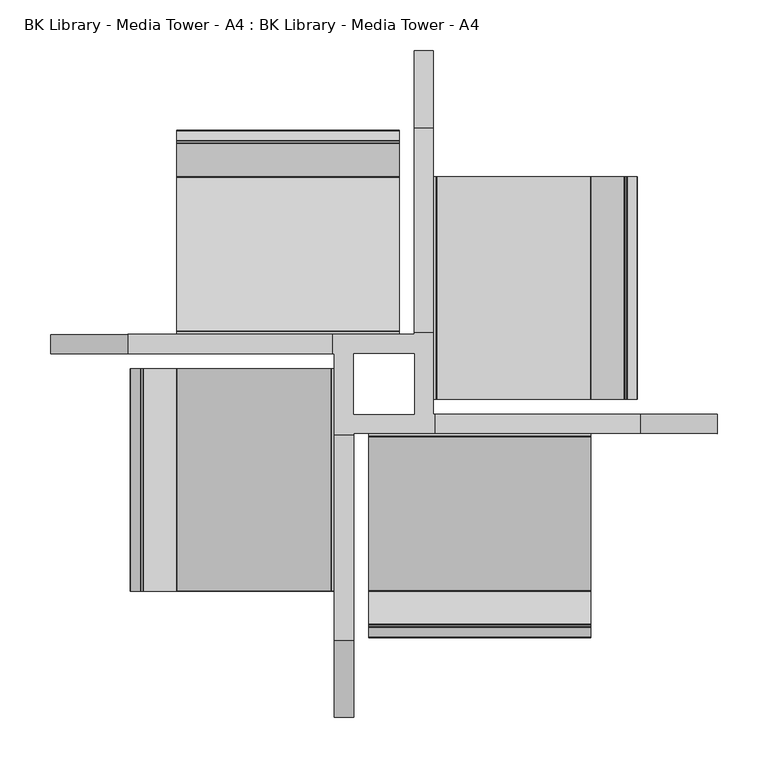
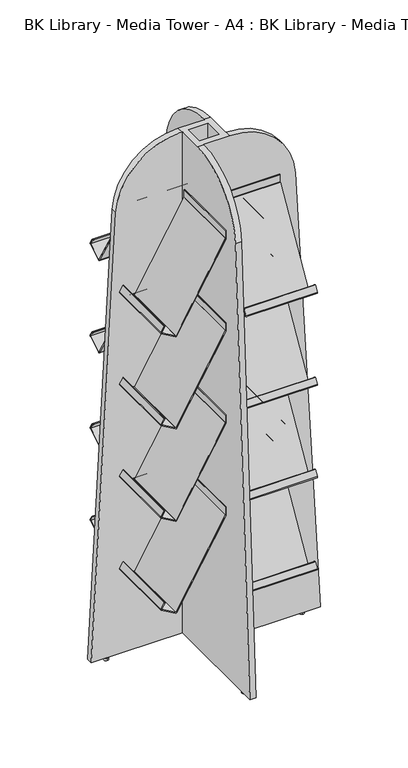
"""IFC4 building model written with IfcOpenShell, lengths in millimetres: furniture geometry, BK Library - Media Tower - A4 : BK Library - Media Tower - A4."""

from ifc_helpers import new_model, si_unit, point, frame, frame_2d, origin, place, context, project, spatial, polyline, circle_curve, trimmed, segment, composite_curve, outline, extrude, source, transform, mapped, element, save
from ifc_brep_helpers import plane_surface, cylinder_surface, advanced_brep


def bk_library_media_tower_a4_bk_library_media_tower_a4_59d103bd(model_context):
    return source(origin(), model_context, "Body", "SolidModel", [
        advanced_brep(
        [(30.0, 50.6069829, 1687.4116211), (30.0, 253.7385228, 1494.7718472), (30.0, 330.0, 57.4116211), (30.0, 49.0, 57.4116211), (30.0, 49.0, 1687.4116211), (30.0, -30.0, 1687.4116211), (30.0, 30.0, 1687.4116211), (30.0, 30.0, 57.4116211), (30.0, -30.0, 57.4116211), (49.0, -30.0, 57.4116211), (49.0, 330.0, 57.4116211), (49.0, 253.7385228, 1494.7718472), (49.0, 50.6069829, 1687.4116211), (49.0, -30.0, 1687.4116211), (330.0, -30.0, 57.4116211), (330.0, -49.0, 57.4116211), (-30.0, -49.0, 57.4116211), (-30.0, -330.0, 57.4116211), (-49.0, -330.0, 57.4116211), (-49.0, 30.0, 57.4116211), (-330.0, 30.0, 57.4116211), (-330.0, 49.0, 57.4116211), (-30.0, 30.0, 57.4116211), (-30.0, -30.0, 57.4116211), (-50.6069829, 49.0, 1687.4116211), (-50.6069829, 30.0, 1687.4116211), (-49.0, 30.0, 1687.4116211), (-49.0, -50.6069829, 1687.4116211), (-30.0, -50.6069829, 1687.4116211), (-30.0, -49.0, 1687.4116211), (50.6069829, -49.0, 1687.4116211), (50.6069829, -30.0, 1687.4116211), (-30.0, -30.0, 1687.4116211), (-30.0, 30.0, 1687.4116211), (-253.7385228, 30.0, 1494.7718472), (-253.7385228, 49.0, 1494.7718472), (-30.0, -253.7385228, 1494.7718472), (-49.0, -253.7385228, 1494.7718472), (253.7385228, -30.0, 1494.7718472), (253.7385228, -49.0, 1494.7718472)],
        [
            (0, 1, circle_curve(frame((30.0, 50.6069829, 1483.994374), z_axis=(-1.0, 0.0, 0.0), x_axis=(0.0, -1.0, 0.0)), 203.4172471)),
            (1, 2),
            (2, 3),
            (3, 4),
            (4, 0),
            (5, 6),
            (6, 7),
            (7, 8),
            (8, 5),
            (9, 10),
            (10, 11),
            (11, 12, circle_curve(frame((49.0, 50.6069829, 1483.994374), z_axis=(1.0, 0.0, 0.0), x_axis=(0.0, -1.0, 0.0)), 203.4172471)),
            (12, 13),
            (13, 9),
            (9, 14),
            (14, 15),
            (15, 16),
            (16, 17),
            (17, 18),
            (18, 19),
            (19, 20),
            (20, 21),
            (21, 3),
            (2, 10),
            (22, 23),
            (23, 8),
            (7, 22),
            (12, 0),
            (4, 24),
            (24, 25),
            (25, 26),
            (26, 27),
            (27, 28),
            (28, 29),
            (29, 30),
            (30, 31),
            (31, 13),
            (5, 32),
            (32, 33),
            (33, 6),
            (1, 11),
            (33, 22),
            (25, 34, circle_curve(frame((-50.6069829, 30.0, 1483.994374), z_axis=(0.0, -1.0, 0.0), x_axis=(1.0, 0.0, 0.0)), 203.4172471)),
            (34, 20),
            (19, 26),
            (21, 35),
            (35, 24, circle_curve(frame((-50.6069829, 49.0, 1483.994374), z_axis=(0.0, 1.0, 0.0), x_axis=(1.0, 0.0, 0.0)), 203.4172471)),
            (34, 35),
            (32, 23),
            (28, 36, circle_curve(frame((-30.0, -50.6069829, 1483.994374), z_axis=(1.0, 0.0, 0.0), x_axis=(0.0, 1.0, 0.0)), 203.4172471)),
            (36, 17),
            (16, 29),
            (18, 37),
            (37, 27, circle_curve(frame((-49.0, -50.6069829, 1483.994374), z_axis=(-1.0, 0.0, 0.0), x_axis=(0.0, 1.0, 0.0)), 203.4172471)),
            (36, 37),
            (31, 38, circle_curve(frame((50.6069829, -30.0, 1483.994374), z_axis=(0.0, 1.0, 0.0), x_axis=(-1.0, 0.0, 0.0)), 203.4172471)),
            (38, 14),
            (15, 39),
            (39, 30, circle_curve(frame((50.6069829, -49.0, 1483.994374), z_axis=(0.0, -1.0, 0.0), x_axis=(-1.0, 0.0, 0.0)), 203.4172471)),
            (38, 39),
        ],
        [
            plane_surface(frame((30.0, -30.0, 1048.4828092), z_axis=(-1.0, 0.0, 0.0), x_axis=(0.0, 0.0, 1.0))),
            plane_surface(frame((49.0, -30.0, 1048.4828092), z_axis=(1.0, 0.0, 0.0), x_axis=(0.0, 0.0, -1.0))),
            plane_surface(frame((30.0, 330.0, 57.4116211), z_axis=(0.0, 0.0, -1.0), x_axis=(1.0, 0.0, 0.0))),
            plane_surface(frame((30.0, -30.0, 1687.4116211), z_axis=(0.0, 0.0, 1.0), x_axis=(1.0, 0.0, 0.0))),
            plane_surface(frame((30.0, 253.7385228, 1494.7718472), z_axis=(0.0, 0.9985954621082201, 0.052982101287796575), x_axis=(1.0, 0.0, 0.0))),
            cylinder_surface(frame((49.0, 50.6069829, 1483.994374), z_axis=(-1.0, 0.0, 0.0), x_axis=(0.0, -1.0, 0.0)), 203.4172471),
            plane_surface(frame((30.0, 30.0, 1048.4828092), z_axis=(0.0, -1.0, 0.0), x_axis=(0.0, 0.0, 1.0))),
            plane_surface(frame((30.0, 49.0, 1048.4828092), z_axis=(0.0, 1.0, 0.0), x_axis=(0.0, 0.0, -1.0))),
            plane_surface(frame((-253.7385228, 30.0, 1494.7718472), z_axis=(-0.9985954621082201, 0.0, 0.052982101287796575), x_axis=(0.0, 1.0, 0.0))),
            cylinder_surface(frame((-50.6069829, 49.0, 1483.994374), z_axis=(0.0, -1.0, 0.0), x_axis=(1.0, 0.0, 0.0)), 203.4172471),
            plane_surface(frame((-30.0, 30.0, 1048.4828092), z_axis=(1.0, 0.0, 0.0), x_axis=(0.0, 0.0, 1.0))),
            plane_surface(frame((-49.0, 30.0, 1048.4828092), z_axis=(-1.0, 0.0, 0.0), x_axis=(0.0, 0.0, -1.0))),
            plane_surface(frame((-30.0, -253.7385228, 1494.7718472), z_axis=(0.0, -0.9985954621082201, 0.052982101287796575), x_axis=(-1.0, 0.0, 0.0))),
            cylinder_surface(frame((-49.0, -50.6069829, 1483.994374), z_axis=(1.0, 0.0, 0.0), x_axis=(0.0, 1.0, 0.0)), 203.4172471),
            plane_surface(frame((-30.0, -30.0, 1048.4828092), z_axis=(0.0, 1.0, 0.0), x_axis=(0.0, 0.0, 1.0))),
            plane_surface(frame((-30.0, -49.0, 1048.4828092), z_axis=(0.0, -1.0, 0.0), x_axis=(0.0, 0.0, -1.0))),
            plane_surface(frame((253.7385228, -30.0, 1494.7718472), z_axis=(0.9985954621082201, 0.0, 0.052982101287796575), x_axis=(0.0, -1.0, 0.0))),
            cylinder_surface(frame((50.6069829, -49.0, 1483.994374), z_axis=(0.0, 1.0, 0.0), x_axis=(-1.0, 0.0, 0.0)), 203.4172471),
        ],
        [
            (0, [[1, 2, 3, 4, 5]]),
            (0, [[6, 7, 8, 9]]),
            (1, [[10, 11, 12, 13, 14]]),
            (2, [[-10, 15, 16, 17, 18, 19, 20, 21, 22, 23, -3, 24], [25, 26, -8, 27]]),
            (3, [[-13, 28, -5, 29, 30, 31, 32, 33, 34, 35, 36, 37], [-6, 38, 39, 40]]),
            (4, [[-2, 41, -11, -24]]),
            (5, [[-1, -28, -12, -41]]),
            (6, [[-7, -40, 42, -27]]),
            (6, [[43, 44, -21, 45, -31]]),
            (7, [[-23, 46, 47, -29, -4]]),
            (8, [[-44, 48, -46, -22]]),
            (9, [[-43, -30, -47, -48]]),
            (10, [[-42, -39, 49, -25]]),
            (10, [[50, 51, -18, 52, -34]]),
            (11, [[-20, 53, 54, -32, -45]]),
            (12, [[-51, 55, -53, -19]]),
            (13, [[-50, -33, -54, -55]]),
            (14, [[-26, -49, -38, -9]]),
            (14, [[56, 57, -15, -14, -37]]),
            (15, [[-17, 58, 59, -35, -52]]),
            (16, [[-57, 60, -58, -16]]),
            (17, [[-56, -36, -59, -60]]),
        ],
    ),
        extrude(outline(composite_curve([segment(trimmed(circle_curve(frame_2d((280.0, -37.5)), 6.9282032), [point((280.0, -44.4282032))], [point((280.0, -30.5717968))], False, "CARTESIAN"), True, "CONTINUOUS"), segment(trimmed(circle_curve(frame_2d((280.0, -37.5)), 6.9282032), [point((280.0, -30.5717968))], [point((280.0, -44.4282032))], False, "CARTESIAN"), True, "CONTINUOUS")], self_intersect=False)), frame((0.0, 0.0, 47.6778831), z_axis=(0.0, 0.0, 1.0), x_axis=(1.0, 0.0, 0.0)), (0.0, 0.0, 1.0), 7.7337379),
        extrude(outline(composite_curve([segment(trimmed(circle_curve(frame_2d((37.5, 280.0)), 6.9282032), [point((44.4282032, 280.0))], [point((30.5717968, 280.0))], False, "CARTESIAN"), True, "CONTINUOUS"), segment(trimmed(circle_curve(frame_2d((37.5, 280.0)), 6.9282032), [point((30.5717968, 280.0))], [point((44.4282032, 280.0))], False, "CARTESIAN"), True, "CONTINUOUS")], self_intersect=False)), frame((0.0, 0.0, 47.6778831), z_axis=(0.0, 0.0, 1.0), x_axis=(1.0, 0.0, 0.0)), (0.0, 0.0, 1.0), 7.7337379),
        extrude(outline(composite_curve([segment(trimmed(circle_curve(frame_2d((-280.0, 37.5)), 6.9282032), [point((-280.0, 44.4282032))], [point((-280.0, 30.5717968))], False, "CARTESIAN"), True, "CONTINUOUS"), segment(trimmed(circle_curve(frame_2d((-280.0, 37.5)), 6.9282032), [point((-280.0, 30.5717968))], [point((-280.0, 44.4282032))], False, "CARTESIAN"), True, "CONTINUOUS")], self_intersect=False)), frame((0.0, 0.0, 47.6778831), z_axis=(0.0, 0.0, 1.0), x_axis=(1.0, 0.0, 0.0)), (0.0, 0.0, 1.0), 7.7337379),
        extrude(outline(composite_curve([segment(trimmed(circle_curve(frame_2d((-37.5, -280.0)), 6.9282032), [point((-44.4282032, -280.0))], [point((-30.5717968, -280.0))], False, "CARTESIAN"), True, "CONTINUOUS"), segment(trimmed(circle_curve(frame_2d((-37.5, -280.0)), 6.9282032), [point((-30.5717968, -280.0))], [point((-44.4282032, -280.0))], False, "CARTESIAN"), True, "CONTINUOUS")], self_intersect=False)), frame((0.0, 0.0, 47.6778831), z_axis=(0.0, 0.0, 1.0), x_axis=(1.0, 0.0, 0.0)), (0.0, 0.0, 1.0), 7.7337379),
        extrude(outline(composite_curve([segment(trimmed(circle_curve(frame_2d((204.5980762, 320.4078475)), 3.0), [point((206.0980762, 317.8097713))], [point((202.0, 318.9078475))], False, "CARTESIAN"), True, "CONTINUOUS"), segment(polyline([(202.0, 318.9078475), (49.0, 583.9116211), (49.0, 605.9116211), (39.0, 605.9116211)]), True, "CONTINUOUS"), segment(trimmed(circle_curve(frame_2d((39.0, 608.9116211)), 3.0), [point((39.0, 605.9116211))], [point((36.0, 608.9116211))], False, "CARTESIAN"), True, "CONTINUOUS"), segment(polyline([(36.0, 608.9116211), (36.0, 621.9116211), (39.0, 621.9116211), (39.0, 608.9116211), (51.5, 608.9116211)]), True, "CONTINUOUS"), segment(trimmed(circle_curve(frame_2d((51.5, 608.4116211)), 0.5), [point((51.5, 608.9116211))], [point((52.0, 608.4116211))], False, "CARTESIAN"), True, "CONTINUOUS"), segment(polyline([(52.0, 608.4116211), (52.0, 585.1174004)]), True, "CONTINUOUS"), segment(trimmed(circle_curve(frame_2d((53.5000295, 585.1174004)), 1.5000295), [point((52.0, 585.1174004))], [point((52.2009658, 584.3673856))], True, "CARTESIAN"), True, "CONTINUOUS"), segment(polyline([(52.2009658, 584.3673856), (204.3480762, 320.8408602)]), True, "CONTINUOUS"), segment(trimmed(circle_curve(frame_2d((204.7810889, 321.0908602)), 0.5), [point((204.3480762, 320.8408602))], [point((205.0310889, 320.6578475))], True, "CARTESIAN"), True, "CONTINUOUS"), segment(polyline([(205.0310889, 320.6578475), (247.8993464, 345.4078475), (238.1493464, 362.2953429)]), True, "CONTINUOUS"), segment(trimmed(circle_curve(frame_2d((238.5823591, 362.5453429)), 0.5), [point((238.1493464, 362.2953429))], [point((238.3323591, 362.9783556))], False, "CARTESIAN"), True, "CONTINUOUS"), segment(polyline([(238.3323591, 362.9783556), (240.0644099, 363.9783556)]), True, "CONTINUOUS"), segment(trimmed(circle_curve(frame_2d((240.3144099, 363.5453429)), 0.5), [point((240.0644099, 363.9783556))], [point((240.7474226, 363.7953429))], False, "CARTESIAN"), True, "CONTINUOUS"), segment(polyline([(240.7474226, 363.7953429), (250.4974226, 346.9078475)]), True, "CONTINUOUS"), segment(trimmed(circle_curve(frame_2d((247.8993464, 345.4078475)), 3.0), [point((250.4974226, 346.9078475))], [point((249.3993464, 342.8097713))], False, "CARTESIAN"), True, "CONTINUOUS"), segment(polyline([(249.3993464, 342.8097713), (206.0980762, 317.8097713)]), True, "CONTINUOUS")], self_intersect=False)), frame((-205.0, 0.0, 0.0), z_axis=(1.0, 0.0, 0.0), x_axis=(0.0, 1.0, 0.0)), (0.0, 0.0, 1.0), 220.0),
        extrude(outline(composite_curve([segment(trimmed(circle_curve(frame_2d((204.5980762, 620.4078475)), 3.0), [point((206.0980762, 617.8097713))], [point((202.0, 618.9078475))], False, "CARTESIAN"), True, "CONTINUOUS"), segment(polyline([(202.0, 618.9078475), (49.0, 883.9116211), (49.0, 905.9116211), (39.0, 905.9116211)]), True, "CONTINUOUS"), segment(trimmed(circle_curve(frame_2d((39.0, 908.9116211)), 3.0), [point((39.0, 905.9116211))], [point((36.0, 908.9116211))], False, "CARTESIAN"), True, "CONTINUOUS"), segment(polyline([(36.0, 908.9116211), (36.0, 921.9116211), (39.0, 921.9116211), (39.0, 908.9116211), (51.5, 908.9116211)]), True, "CONTINUOUS"), segment(trimmed(circle_curve(frame_2d((51.5, 908.4116211)), 0.5), [point((51.5, 908.9116211))], [point((52.0, 908.4116211))], False, "CARTESIAN"), True, "CONTINUOUS"), segment(polyline([(52.0, 908.4116211), (52.0, 885.1174004)]), True, "CONTINUOUS"), segment(trimmed(circle_curve(frame_2d((53.5000295, 885.1174004)), 1.5000295), [point((52.0, 885.1174004))], [point((52.2009658, 884.3673856))], True, "CARTESIAN"), True, "CONTINUOUS"), segment(polyline([(52.2009658, 884.3673856), (204.3480762, 620.8408602)]), True, "CONTINUOUS"), segment(trimmed(circle_curve(frame_2d((204.7810889, 621.0908602)), 0.5), [point((204.3480762, 620.8408602))], [point((205.0310889, 620.6578475))], True, "CARTESIAN"), True, "CONTINUOUS"), segment(polyline([(205.0310889, 620.6578475), (247.8993464, 645.4078475), (238.1493464, 662.2953429)]), True, "CONTINUOUS"), segment(trimmed(circle_curve(frame_2d((238.5823591, 662.5453429)), 0.5), [point((238.1493464, 662.2953429))], [point((238.3323591, 662.9783556))], False, "CARTESIAN"), True, "CONTINUOUS"), segment(polyline([(238.3323591, 662.9783556), (240.0644099, 663.9783556)]), True, "CONTINUOUS"), segment(trimmed(circle_curve(frame_2d((240.3144099, 663.5453429)), 0.5), [point((240.0644099, 663.9783556))], [point((240.7474226, 663.7953429))], False, "CARTESIAN"), True, "CONTINUOUS"), segment(polyline([(240.7474226, 663.7953429), (250.4974226, 646.9078475)]), True, "CONTINUOUS"), segment(trimmed(circle_curve(frame_2d((247.8993464, 645.4078475)), 3.0), [point((250.4974226, 646.9078475))], [point((249.3993464, 642.8097713))], False, "CARTESIAN"), True, "CONTINUOUS"), segment(polyline([(249.3993464, 642.8097713), (206.0980762, 617.8097713)]), True, "CONTINUOUS")], self_intersect=False)), frame((-205.0, 0.0, 0.0), z_axis=(1.0, 0.0, 0.0), x_axis=(0.0, 1.0, 0.0)), (0.0, 0.0, 1.0), 220.0),
        extrude(outline(composite_curve([segment(trimmed(circle_curve(frame_2d((204.5980762, 920.4078475)), 3.0), [point((206.0980762, 917.8097713))], [point((202.0, 918.9078475))], False, "CARTESIAN"), True, "CONTINUOUS"), segment(polyline([(202.0, 918.9078475), (49.0, 1183.9116211), (49.0, 1205.9116211), (39.0, 1205.9116211)]), True, "CONTINUOUS"), segment(trimmed(circle_curve(frame_2d((39.0, 1208.9116211)), 3.0), [point((39.0, 1205.9116211))], [point((36.0, 1208.9116211))], False, "CARTESIAN"), True, "CONTINUOUS"), segment(polyline([(36.0, 1208.9116211), (36.0, 1221.9116211), (39.0, 1221.9116211), (39.0, 1208.9116211), (51.5, 1208.9116211)]), True, "CONTINUOUS"), segment(trimmed(circle_curve(frame_2d((51.5, 1208.4116211)), 0.5), [point((51.5, 1208.9116211))], [point((52.0, 1208.4116211))], False, "CARTESIAN"), True, "CONTINUOUS"), segment(polyline([(52.0, 1208.4116211), (52.0, 1185.1174004)]), True, "CONTINUOUS"), segment(trimmed(circle_curve(frame_2d((53.5000295, 1185.1174004)), 1.5000295), [point((52.0, 1185.1174004))], [point((52.2009658, 1184.3673856))], True, "CARTESIAN"), True, "CONTINUOUS"), segment(polyline([(52.2009658, 1184.3673856), (204.3480762, 920.8408602)]), True, "CONTINUOUS"), segment(trimmed(circle_curve(frame_2d((204.7810889, 921.0908602)), 0.5), [point((204.3480762, 920.8408602))], [point((205.0310889, 920.6578475))], True, "CARTESIAN"), True, "CONTINUOUS"), segment(polyline([(205.0310889, 920.6578475), (247.8993464, 945.4078475), (238.1493464, 962.2953429)]), True, "CONTINUOUS"), segment(trimmed(circle_curve(frame_2d((238.5823591, 962.5453429)), 0.5), [point((238.1493464, 962.2953429))], [point((238.3323591, 962.9783556))], False, "CARTESIAN"), True, "CONTINUOUS"), segment(polyline([(238.3323591, 962.9783556), (240.0644099, 963.9783556)]), True, "CONTINUOUS"), segment(trimmed(circle_curve(frame_2d((240.3144099, 963.5453429)), 0.5), [point((240.0644099, 963.9783556))], [point((240.7474226, 963.7953429))], False, "CARTESIAN"), True, "CONTINUOUS"), segment(polyline([(240.7474226, 963.7953429), (250.4974226, 946.9078475)]), True, "CONTINUOUS"), segment(trimmed(circle_curve(frame_2d((247.8993464, 945.4078475)), 3.0), [point((250.4974226, 946.9078475))], [point((249.3993464, 942.8097713))], False, "CARTESIAN"), True, "CONTINUOUS"), segment(polyline([(249.3993464, 942.8097713), (206.0980762, 917.8097713)]), True, "CONTINUOUS")], self_intersect=False)), frame((-205.0, 0.0, 0.0), z_axis=(1.0, 0.0, 0.0), x_axis=(0.0, 1.0, 0.0)), (0.0, 0.0, 1.0), 220.0),
        extrude(outline(composite_curve([segment(trimmed(circle_curve(frame_2d((204.5980762, 1220.4078475)), 3.0), [point((206.0980762, 1217.8097713))], [point((202.0, 1218.9078475))], False, "CARTESIAN"), True, "CONTINUOUS"), segment(polyline([(202.0, 1218.9078475), (49.0, 1483.9116211), (49.0, 1505.9116211), (39.0, 1505.9116211)]), True, "CONTINUOUS"), segment(trimmed(circle_curve(frame_2d((39.0, 1508.9116211)), 3.0), [point((39.0, 1505.9116211))], [point((36.0, 1508.9116211))], False, "CARTESIAN"), True, "CONTINUOUS"), segment(polyline([(36.0, 1508.9116211), (36.0, 1521.9116211), (39.0, 1521.9116211), (39.0, 1508.9116211), (51.5, 1508.9116211)]), True, "CONTINUOUS"), segment(trimmed(circle_curve(frame_2d((51.5, 1508.4116211)), 0.5), [point((51.5, 1508.9116211))], [point((52.0, 1508.4116211))], False, "CARTESIAN"), True, "CONTINUOUS"), segment(polyline([(52.0, 1508.4116211), (52.0, 1485.1174004)]), True, "CONTINUOUS"), segment(trimmed(circle_curve(frame_2d((53.5000295, 1485.1174004)), 1.5000295), [point((52.0, 1485.1174004))], [point((52.2009658, 1484.3673856))], True, "CARTESIAN"), True, "CONTINUOUS"), segment(polyline([(52.2009658, 1484.3673856), (204.3480762, 1220.8408602)]), True, "CONTINUOUS"), segment(trimmed(circle_curve(frame_2d((204.7810889, 1221.0908602)), 0.5), [point((204.3480762, 1220.8408602))], [point((205.0310889, 1220.6578475))], True, "CARTESIAN"), True, "CONTINUOUS"), segment(polyline([(205.0310889, 1220.6578475), (247.8993464, 1245.4078475), (238.1493464, 1262.2953429)]), True, "CONTINUOUS"), segment(trimmed(circle_curve(frame_2d((238.5823591, 1262.5453429)), 0.5), [point((238.1493464, 1262.2953429))], [point((238.3323591, 1262.9783556))], False, "CARTESIAN"), True, "CONTINUOUS"), segment(polyline([(238.3323591, 1262.9783556), (240.0644099, 1263.9783556)]), True, "CONTINUOUS"), segment(trimmed(circle_curve(frame_2d((240.3144099, 1263.5453429)), 0.5), [point((240.0644099, 1263.9783556))], [point((240.7474226, 1263.7953429))], False, "CARTESIAN"), True, "CONTINUOUS"), segment(polyline([(240.7474226, 1263.7953429), (250.4974226, 1246.9078475)]), True, "CONTINUOUS"), segment(trimmed(circle_curve(frame_2d((247.8993464, 1245.4078475)), 3.0), [point((250.4974226, 1246.9078475))], [point((249.3993464, 1242.8097713))], False, "CARTESIAN"), True, "CONTINUOUS"), segment(polyline([(249.3993464, 1242.8097713), (206.0980762, 1217.8097713)]), True, "CONTINUOUS")], self_intersect=False)), frame((-205.0, 0.0, 0.0), z_axis=(1.0, 0.0, 0.0), x_axis=(0.0, 1.0, 0.0)), (0.0, 0.0, 1.0), 220.0),
        extrude(outline(composite_curve([segment(polyline([(317.8097713, 206.0980762), (342.8097713, 249.3993464)]), True, "CONTINUOUS"), segment(trimmed(circle_curve(frame_2d((345.4078475, 247.8993464)), 3.0), [point((342.8097713, 249.3993464))], [point((346.9078475, 250.4974226))], False, "CARTESIAN"), True, "CONTINUOUS"), segment(polyline([(346.9078475, 250.4974226), (363.7953429, 240.7474226)]), True, "CONTINUOUS"), segment(trimmed(circle_curve(frame_2d((363.5453429, 240.3144099)), 0.5), [point((363.7953429, 240.7474226))], [point((363.9783556, 240.0644099))], False, "CARTESIAN"), True, "CONTINUOUS"), segment(polyline([(363.9783556, 240.0644099), (362.9783556, 238.3323591)]), True, "CONTINUOUS"), segment(trimmed(circle_curve(frame_2d((362.5453429, 238.5823591)), 0.5), [point((362.9783556, 238.3323591))], [point((362.2953429, 238.1493464))], False, "CARTESIAN"), True, "CONTINUOUS"), segment(polyline([(362.2953429, 238.1493464), (345.4078475, 247.8993464), (320.6578475, 205.0310889)]), True, "CONTINUOUS"), segment(trimmed(circle_curve(frame_2d((321.0908602, 204.7810889)), 0.5), [point((320.6578475, 205.0310889))], [point((320.8408602, 204.3480762))], True, "CARTESIAN"), True, "CONTINUOUS"), segment(polyline([(320.8408602, 204.3480762), (584.3673856, 52.2009658)]), True, "CONTINUOUS"), segment(trimmed(circle_curve(frame_2d((585.1174004, 53.5000295)), 1.5000295), [point((584.3673856, 52.2009658))], [point((585.1174004, 52.0))], True, "CARTESIAN"), True, "CONTINUOUS"), segment(polyline([(585.1174004, 52.0), (608.4116211, 52.0)]), True, "CONTINUOUS"), segment(trimmed(circle_curve(frame_2d((608.4116211, 51.5)), 0.5), [point((608.4116211, 52.0))], [point((608.9116211, 51.5))], False, "CARTESIAN"), True, "CONTINUOUS"), segment(polyline([(608.9116211, 51.5), (608.9116211, 39.0), (621.9116211, 39.0), (621.9116211, 36.0), (608.9116211, 36.0)]), True, "CONTINUOUS"), segment(trimmed(circle_curve(frame_2d((608.9116211, 39.0)), 3.0), [point((608.9116211, 36.0))], [point((605.9116211, 39.0))], False, "CARTESIAN"), True, "CONTINUOUS"), segment(polyline([(605.9116211, 39.0), (605.9116211, 49.0), (583.9116211, 49.0), (318.9078475, 202.0)]), True, "CONTINUOUS"), segment(trimmed(circle_curve(frame_2d((320.4078475, 204.5980762)), 3.0), [point((318.9078475, 202.0))], [point((317.8097713, 206.0980762))], False, "CARTESIAN"), True, "CONTINUOUS")], self_intersect=False)), frame((0.0, -15.0, 0.0), z_axis=(0.0, 1.0, 0.0), x_axis=(0.0, 0.0, 1.0)), (0.0, 0.0, 1.0), 220.0),
        extrude(outline(composite_curve([segment(polyline([(617.8097713, 206.0980762), (642.8097713, 249.3993464)]), True, "CONTINUOUS"), segment(trimmed(circle_curve(frame_2d((645.4078475, 247.8993464)), 3.0), [point((642.8097713, 249.3993464))], [point((646.9078475, 250.4974226))], False, "CARTESIAN"), True, "CONTINUOUS"), segment(polyline([(646.9078475, 250.4974226), (663.7953429, 240.7474226)]), True, "CONTINUOUS"), segment(trimmed(circle_curve(frame_2d((663.5453429, 240.3144099)), 0.5), [point((663.7953429, 240.7474226))], [point((663.9783556, 240.0644099))], False, "CARTESIAN"), True, "CONTINUOUS"), segment(polyline([(663.9783556, 240.0644099), (662.9783556, 238.3323591)]), True, "CONTINUOUS"), segment(trimmed(circle_curve(frame_2d((662.5453429, 238.5823591)), 0.5), [point((662.9783556, 238.3323591))], [point((662.2953429, 238.1493464))], False, "CARTESIAN"), True, "CONTINUOUS"), segment(polyline([(662.2953429, 238.1493464), (645.4078475, 247.8993464), (620.6578475, 205.0310889)]), True, "CONTINUOUS"), segment(trimmed(circle_curve(frame_2d((621.0908602, 204.7810889)), 0.5), [point((620.6578475, 205.0310889))], [point((620.8408602, 204.3480762))], True, "CARTESIAN"), True, "CONTINUOUS"), segment(polyline([(620.8408602, 204.3480762), (884.3673856, 52.2009658)]), True, "CONTINUOUS"), segment(trimmed(circle_curve(frame_2d((885.1174004, 53.5000295)), 1.5000295), [point((884.3673856, 52.2009658))], [point((885.1174004, 52.0))], True, "CARTESIAN"), True, "CONTINUOUS"), segment(polyline([(885.1174004, 52.0), (908.4116211, 52.0)]), True, "CONTINUOUS"), segment(trimmed(circle_curve(frame_2d((908.4116211, 51.5)), 0.5), [point((908.4116211, 52.0))], [point((908.9116211, 51.5))], False, "CARTESIAN"), True, "CONTINUOUS"), segment(polyline([(908.9116211, 51.5), (908.9116211, 39.0), (921.9116211, 39.0), (921.9116211, 36.0), (908.9116211, 36.0)]), True, "CONTINUOUS"), segment(trimmed(circle_curve(frame_2d((908.9116211, 39.0)), 3.0), [point((908.9116211, 36.0))], [point((905.9116211, 39.0))], False, "CARTESIAN"), True, "CONTINUOUS"), segment(polyline([(905.9116211, 39.0), (905.9116211, 49.0), (883.9116211, 49.0), (618.9078475, 202.0)]), True, "CONTINUOUS"), segment(trimmed(circle_curve(frame_2d((620.4078475, 204.5980762)), 3.0), [point((618.9078475, 202.0))], [point((617.8097713, 206.0980762))], False, "CARTESIAN"), True, "CONTINUOUS")], self_intersect=False)), frame((0.0, -15.0, 0.0), z_axis=(0.0, 1.0, 0.0), x_axis=(0.0, 0.0, 1.0)), (0.0, 0.0, 1.0), 220.0),
        extrude(outline(composite_curve([segment(polyline([(917.8097713, 206.0980762), (942.8097713, 249.3993464)]), True, "CONTINUOUS"), segment(trimmed(circle_curve(frame_2d((945.4078475, 247.8993464)), 3.0), [point((942.8097713, 249.3993464))], [point((946.9078475, 250.4974226))], False, "CARTESIAN"), True, "CONTINUOUS"), segment(polyline([(946.9078475, 250.4974226), (963.7953429, 240.7474226)]), True, "CONTINUOUS"), segment(trimmed(circle_curve(frame_2d((963.5453429, 240.3144099)), 0.5), [point((963.7953429, 240.7474226))], [point((963.9783556, 240.0644099))], False, "CARTESIAN"), True, "CONTINUOUS"), segment(polyline([(963.9783556, 240.0644099), (962.9783556, 238.3323591)]), True, "CONTINUOUS"), segment(trimmed(circle_curve(frame_2d((962.5453429, 238.5823591)), 0.5), [point((962.9783556, 238.3323591))], [point((962.2953429, 238.1493464))], False, "CARTESIAN"), True, "CONTINUOUS"), segment(polyline([(962.2953429, 238.1493464), (945.4078475, 247.8993464), (920.6578475, 205.0310889)]), True, "CONTINUOUS"), segment(trimmed(circle_curve(frame_2d((921.0908602, 204.7810889)), 0.5), [point((920.6578475, 205.0310889))], [point((920.8408602, 204.3480762))], True, "CARTESIAN"), True, "CONTINUOUS"), segment(polyline([(920.8408602, 204.3480762), (1184.3673856, 52.2009658)]), True, "CONTINUOUS"), segment(trimmed(circle_curve(frame_2d((1185.1174004, 53.5000295)), 1.5000295), [point((1184.3673856, 52.2009658))], [point((1185.1174004, 52.0))], True, "CARTESIAN"), True, "CONTINUOUS"), segment(polyline([(1185.1174004, 52.0), (1208.4116211, 52.0)]), True, "CONTINUOUS"), segment(trimmed(circle_curve(frame_2d((1208.4116211, 51.5)), 0.5), [point((1208.4116211, 52.0))], [point((1208.9116211, 51.5))], False, "CARTESIAN"), True, "CONTINUOUS"), segment(polyline([(1208.9116211, 51.5), (1208.9116211, 39.0), (1221.9116211, 39.0), (1221.9116211, 36.0), (1208.9116211, 36.0)]), True, "CONTINUOUS"), segment(trimmed(circle_curve(frame_2d((1208.9116211, 39.0)), 3.0), [point((1208.9116211, 36.0))], [point((1205.9116211, 39.0))], False, "CARTESIAN"), True, "CONTINUOUS"), segment(polyline([(1205.9116211, 39.0), (1205.9116211, 49.0), (1183.9116211, 49.0), (918.9078475, 202.0)]), True, "CONTINUOUS"), segment(trimmed(circle_curve(frame_2d((920.4078475, 204.5980762)), 3.0), [point((918.9078475, 202.0))], [point((917.8097713, 206.0980762))], False, "CARTESIAN"), True, "CONTINUOUS")], self_intersect=False)), frame((0.0, -15.0, 0.0), z_axis=(0.0, 1.0, 0.0), x_axis=(0.0, 0.0, 1.0)), (0.0, 0.0, 1.0), 220.0),
        extrude(outline(composite_curve([segment(polyline([(1217.8097713, 206.0980762), (1242.8097713, 249.3993464)]), True, "CONTINUOUS"), segment(trimmed(circle_curve(frame_2d((1245.4078475, 247.8993464)), 3.0), [point((1242.8097713, 249.3993464))], [point((1246.9078475, 250.4974226))], False, "CARTESIAN"), True, "CONTINUOUS"), segment(polyline([(1246.9078475, 250.4974226), (1263.7953429, 240.7474226)]), True, "CONTINUOUS"), segment(trimmed(circle_curve(frame_2d((1263.5453429, 240.3144099)), 0.5), [point((1263.7953429, 240.7474226))], [point((1263.9783556, 240.0644099))], False, "CARTESIAN"), True, "CONTINUOUS"), segment(polyline([(1263.9783556, 240.0644099), (1262.9783556, 238.3323591)]), True, "CONTINUOUS"), segment(trimmed(circle_curve(frame_2d((1262.5453429, 238.5823591)), 0.5), [point((1262.9783556, 238.3323591))], [point((1262.2953429, 238.1493464))], False, "CARTESIAN"), True, "CONTINUOUS"), segment(polyline([(1262.2953429, 238.1493464), (1245.4078475, 247.8993464), (1220.6578475, 205.0310889)]), True, "CONTINUOUS"), segment(trimmed(circle_curve(frame_2d((1221.0908602, 204.7810889)), 0.5), [point((1220.6578475, 205.0310889))], [point((1220.8408602, 204.3480762))], True, "CARTESIAN"), True, "CONTINUOUS"), segment(polyline([(1220.8408602, 204.3480762), (1484.3673856, 52.2009658)]), True, "CONTINUOUS"), segment(trimmed(circle_curve(frame_2d((1485.1174004, 53.5000295)), 1.5000295), [point((1484.3673856, 52.2009658))], [point((1485.1174004, 52.0))], True, "CARTESIAN"), True, "CONTINUOUS"), segment(polyline([(1485.1174004, 52.0), (1508.4116211, 52.0)]), True, "CONTINUOUS"), segment(trimmed(circle_curve(frame_2d((1508.4116211, 51.5)), 0.5), [point((1508.4116211, 52.0))], [point((1508.9116211, 51.5))], False, "CARTESIAN"), True, "CONTINUOUS"), segment(polyline([(1508.9116211, 51.5), (1508.9116211, 39.0), (1521.9116211, 39.0), (1521.9116211, 36.0), (1508.9116211, 36.0)]), True, "CONTINUOUS"), segment(trimmed(circle_curve(frame_2d((1508.9116211, 39.0)), 3.0), [point((1508.9116211, 36.0))], [point((1505.9116211, 39.0))], False, "CARTESIAN"), True, "CONTINUOUS"), segment(polyline([(1505.9116211, 39.0), (1505.9116211, 49.0), (1483.9116211, 49.0), (1218.9078475, 202.0)]), True, "CONTINUOUS"), segment(trimmed(circle_curve(frame_2d((1220.4078475, 204.5980762)), 3.0), [point((1218.9078475, 202.0))], [point((1217.8097713, 206.0980762))], False, "CARTESIAN"), True, "CONTINUOUS")], self_intersect=False)), frame((0.0, -15.0, 0.0), z_axis=(0.0, 1.0, 0.0), x_axis=(0.0, 0.0, 1.0)), (0.0, 0.0, 1.0), 220.0),
        extrude(outline(composite_curve([segment(polyline([(-206.0980762, 317.8097713), (-249.3993464, 342.8097713)]), True, "CONTINUOUS"), segment(trimmed(circle_curve(frame_2d((-247.8993464, 345.4078475)), 3.0), [point((-249.3993464, 342.8097713))], [point((-250.4974226, 346.9078475))], False, "CARTESIAN"), True, "CONTINUOUS"), segment(polyline([(-250.4974226, 346.9078475), (-240.7474226, 363.7953429)]), True, "CONTINUOUS"), segment(trimmed(circle_curve(frame_2d((-240.3144099, 363.5453429)), 0.5), [point((-240.7474226, 363.7953429))], [point((-240.0644099, 363.9783556))], False, "CARTESIAN"), True, "CONTINUOUS"), segment(polyline([(-240.0644099, 363.9783556), (-238.3323591, 362.9783556)]), True, "CONTINUOUS"), segment(trimmed(circle_curve(frame_2d((-238.5823591, 362.5453429)), 0.5), [point((-238.3323591, 362.9783556))], [point((-238.1493464, 362.2953429))], False, "CARTESIAN"), True, "CONTINUOUS"), segment(polyline([(-238.1493464, 362.2953429), (-247.8993464, 345.4078475), (-205.0310889, 320.6578475)]), True, "CONTINUOUS"), segment(trimmed(circle_curve(frame_2d((-204.7810889, 321.0908602)), 0.5), [point((-205.0310889, 320.6578475))], [point((-204.3480762, 320.8408602))], True, "CARTESIAN"), True, "CONTINUOUS"), segment(polyline([(-204.3480762, 320.8408602), (-52.2009658, 584.3673856)]), True, "CONTINUOUS"), segment(trimmed(circle_curve(frame_2d((-53.5000295, 585.1174004)), 1.5000295), [point((-52.2009658, 584.3673856))], [point((-52.0, 585.1174004))], True, "CARTESIAN"), True, "CONTINUOUS"), segment(polyline([(-52.0, 585.1174004), (-52.0, 608.4116211)]), True, "CONTINUOUS"), segment(trimmed(circle_curve(frame_2d((-51.5, 608.4116211)), 0.5), [point((-52.0, 608.4116211))], [point((-51.5, 608.9116211))], False, "CARTESIAN"), True, "CONTINUOUS"), segment(polyline([(-51.5, 608.9116211), (-39.0, 608.9116211), (-39.0, 621.9116211), (-36.0, 621.9116211), (-36.0, 608.9116211)]), True, "CONTINUOUS"), segment(trimmed(circle_curve(frame_2d((-39.0, 608.9116211)), 3.0), [point((-36.0, 608.9116211))], [point((-39.0, 605.9116211))], False, "CARTESIAN"), True, "CONTINUOUS"), segment(polyline([(-39.0, 605.9116211), (-49.0, 605.9116211), (-49.0, 583.9116211), (-202.0, 318.9078475)]), True, "CONTINUOUS"), segment(trimmed(circle_curve(frame_2d((-204.5980762, 320.4078475)), 3.0), [point((-202.0, 318.9078475))], [point((-206.0980762, 317.8097713))], False, "CARTESIAN"), True, "CONTINUOUS")], self_intersect=False)), frame((-15.0, 0.0, 0.0), z_axis=(1.0, 0.0, 0.0), x_axis=(0.0, 1.0, 0.0)), (0.0, 0.0, 1.0), 220.0),
        extrude(outline(composite_curve([segment(polyline([(-206.0980762, 617.8097713), (-249.3993464, 642.8097713)]), True, "CONTINUOUS"), segment(trimmed(circle_curve(frame_2d((-247.8993464, 645.4078475)), 3.0), [point((-249.3993464, 642.8097713))], [point((-250.4974226, 646.9078475))], False, "CARTESIAN"), True, "CONTINUOUS"), segment(polyline([(-250.4974226, 646.9078475), (-240.7474226, 663.7953429)]), True, "CONTINUOUS"), segment(trimmed(circle_curve(frame_2d((-240.3144099, 663.5453429)), 0.5), [point((-240.7474226, 663.7953429))], [point((-240.0644099, 663.9783556))], False, "CARTESIAN"), True, "CONTINUOUS"), segment(polyline([(-240.0644099, 663.9783556), (-238.3323591, 662.9783556)]), True, "CONTINUOUS"), segment(trimmed(circle_curve(frame_2d((-238.5823591, 662.5453429)), 0.5), [point((-238.3323591, 662.9783556))], [point((-238.1493464, 662.2953429))], False, "CARTESIAN"), True, "CONTINUOUS"), segment(polyline([(-238.1493464, 662.2953429), (-247.8993464, 645.4078475), (-205.0310889, 620.6578475)]), True, "CONTINUOUS"), segment(trimmed(circle_curve(frame_2d((-204.7810889, 621.0908602)), 0.5), [point((-205.0310889, 620.6578475))], [point((-204.3480762, 620.8408602))], True, "CARTESIAN"), True, "CONTINUOUS"), segment(polyline([(-204.3480762, 620.8408602), (-52.2009658, 884.3673856)]), True, "CONTINUOUS"), segment(trimmed(circle_curve(frame_2d((-53.5000295, 885.1174004)), 1.5000295), [point((-52.2009658, 884.3673856))], [point((-52.0, 885.1174004))], True, "CARTESIAN"), True, "CONTINUOUS"), segment(polyline([(-52.0, 885.1174004), (-52.0, 908.4116211)]), True, "CONTINUOUS"), segment(trimmed(circle_curve(frame_2d((-51.5, 908.4116211)), 0.5), [point((-52.0, 908.4116211))], [point((-51.5, 908.9116211))], False, "CARTESIAN"), True, "CONTINUOUS"), segment(polyline([(-51.5, 908.9116211), (-39.0, 908.9116211), (-39.0, 921.9116211), (-36.0, 921.9116211), (-36.0, 908.9116211)]), True, "CONTINUOUS"), segment(trimmed(circle_curve(frame_2d((-39.0, 908.9116211)), 3.0), [point((-36.0, 908.9116211))], [point((-39.0, 905.9116211))], False, "CARTESIAN"), True, "CONTINUOUS"), segment(polyline([(-39.0, 905.9116211), (-49.0, 905.9116211), (-49.0, 883.9116211), (-202.0, 618.9078475)]), True, "CONTINUOUS"), segment(trimmed(circle_curve(frame_2d((-204.5980762, 620.4078475)), 3.0), [point((-202.0, 618.9078475))], [point((-206.0980762, 617.8097713))], False, "CARTESIAN"), True, "CONTINUOUS")], self_intersect=False)), frame((-15.0, 0.0, 0.0), z_axis=(1.0, 0.0, 0.0), x_axis=(0.0, 1.0, 0.0)), (0.0, 0.0, 1.0), 220.0),
        extrude(outline(composite_curve([segment(polyline([(-206.0980762, 917.8097713), (-249.3993464, 942.8097713)]), True, "CONTINUOUS"), segment(trimmed(circle_curve(frame_2d((-247.8993464, 945.4078475)), 3.0), [point((-249.3993464, 942.8097713))], [point((-250.4974226, 946.9078475))], False, "CARTESIAN"), True, "CONTINUOUS"), segment(polyline([(-250.4974226, 946.9078475), (-240.7474226, 963.7953429)]), True, "CONTINUOUS"), segment(trimmed(circle_curve(frame_2d((-240.3144099, 963.5453429)), 0.5), [point((-240.7474226, 963.7953429))], [point((-240.0644099, 963.9783556))], False, "CARTESIAN"), True, "CONTINUOUS"), segment(polyline([(-240.0644099, 963.9783556), (-238.3323591, 962.9783556)]), True, "CONTINUOUS"), segment(trimmed(circle_curve(frame_2d((-238.5823591, 962.5453429)), 0.5), [point((-238.3323591, 962.9783556))], [point((-238.1493464, 962.2953429))], False, "CARTESIAN"), True, "CONTINUOUS"), segment(polyline([(-238.1493464, 962.2953429), (-247.8993464, 945.4078475), (-205.0310889, 920.6578475)]), True, "CONTINUOUS"), segment(trimmed(circle_curve(frame_2d((-204.7810889, 921.0908602)), 0.5), [point((-205.0310889, 920.6578475))], [point((-204.3480762, 920.8408602))], True, "CARTESIAN"), True, "CONTINUOUS"), segment(polyline([(-204.3480762, 920.8408602), (-52.2009658, 1184.3673856)]), True, "CONTINUOUS"), segment(trimmed(circle_curve(frame_2d((-53.5000295, 1185.1174004)), 1.5000295), [point((-52.2009658, 1184.3673856))], [point((-52.0, 1185.1174004))], True, "CARTESIAN"), True, "CONTINUOUS"), segment(polyline([(-52.0, 1185.1174004), (-52.0, 1208.4116211)]), True, "CONTINUOUS"), segment(trimmed(circle_curve(frame_2d((-51.5, 1208.4116211)), 0.5), [point((-52.0, 1208.4116211))], [point((-51.5, 1208.9116211))], False, "CARTESIAN"), True, "CONTINUOUS"), segment(polyline([(-51.5, 1208.9116211), (-39.0, 1208.9116211), (-39.0, 1221.9116211), (-36.0, 1221.9116211), (-36.0, 1208.9116211)]), True, "CONTINUOUS"), segment(trimmed(circle_curve(frame_2d((-39.0, 1208.9116211)), 3.0), [point((-36.0, 1208.9116211))], [point((-39.0, 1205.9116211))], False, "CARTESIAN"), True, "CONTINUOUS"), segment(polyline([(-39.0, 1205.9116211), (-49.0, 1205.9116211), (-49.0, 1183.9116211), (-202.0, 918.9078475)]), True, "CONTINUOUS"), segment(trimmed(circle_curve(frame_2d((-204.5980762, 920.4078475)), 3.0), [point((-202.0, 918.9078475))], [point((-206.0980762, 917.8097713))], False, "CARTESIAN"), True, "CONTINUOUS")], self_intersect=False)), frame((-15.0, 0.0, 0.0), z_axis=(1.0, 0.0, 0.0), x_axis=(0.0, 1.0, 0.0)), (0.0, 0.0, 1.0), 220.0),
        extrude(outline(composite_curve([segment(polyline([(-206.0980762, 1217.8097713), (-249.3993464, 1242.8097713)]), True, "CONTINUOUS"), segment(trimmed(circle_curve(frame_2d((-247.8993464, 1245.4078475)), 3.0), [point((-249.3993464, 1242.8097713))], [point((-250.4974226, 1246.9078475))], False, "CARTESIAN"), True, "CONTINUOUS"), segment(polyline([(-250.4974226, 1246.9078475), (-240.7474226, 1263.7953429)]), True, "CONTINUOUS"), segment(trimmed(circle_curve(frame_2d((-240.3144099, 1263.5453429)), 0.5), [point((-240.7474226, 1263.7953429))], [point((-240.0644099, 1263.9783556))], False, "CARTESIAN"), True, "CONTINUOUS"), segment(polyline([(-240.0644099, 1263.9783556), (-238.3323591, 1262.9783556)]), True, "CONTINUOUS"), segment(trimmed(circle_curve(frame_2d((-238.5823591, 1262.5453429)), 0.5), [point((-238.3323591, 1262.9783556))], [point((-238.1493464, 1262.2953429))], False, "CARTESIAN"), True, "CONTINUOUS"), segment(polyline([(-238.1493464, 1262.2953429), (-247.8993464, 1245.4078475), (-205.0310889, 1220.6578475)]), True, "CONTINUOUS"), segment(trimmed(circle_curve(frame_2d((-204.7810889, 1221.0908602)), 0.5), [point((-205.0310889, 1220.6578475))], [point((-204.3480762, 1220.8408602))], True, "CARTESIAN"), True, "CONTINUOUS"), segment(polyline([(-204.3480762, 1220.8408602), (-52.2009658, 1484.3673856)]), True, "CONTINUOUS"), segment(trimmed(circle_curve(frame_2d((-53.5000295, 1485.1174004)), 1.5000295), [point((-52.2009658, 1484.3673856))], [point((-52.0, 1485.1174004))], True, "CARTESIAN"), True, "CONTINUOUS"), segment(polyline([(-52.0, 1485.1174004), (-52.0, 1508.4116211)]), True, "CONTINUOUS"), segment(trimmed(circle_curve(frame_2d((-51.5, 1508.4116211)), 0.5), [point((-52.0, 1508.4116211))], [point((-51.5, 1508.9116211))], False, "CARTESIAN"), True, "CONTINUOUS"), segment(polyline([(-51.5, 1508.9116211), (-39.0, 1508.9116211), (-39.0, 1521.9116211), (-36.0, 1521.9116211), (-36.0, 1508.9116211)]), True, "CONTINUOUS"), segment(trimmed(circle_curve(frame_2d((-39.0, 1508.9116211)), 3.0), [point((-36.0, 1508.9116211))], [point((-39.0, 1505.9116211))], False, "CARTESIAN"), True, "CONTINUOUS"), segment(polyline([(-39.0, 1505.9116211), (-49.0, 1505.9116211), (-49.0, 1483.9116211), (-202.0, 1218.9078475)]), True, "CONTINUOUS"), segment(trimmed(circle_curve(frame_2d((-204.5980762, 1220.4078475)), 3.0), [point((-202.0, 1218.9078475))], [point((-206.0980762, 1217.8097713))], False, "CARTESIAN"), True, "CONTINUOUS")], self_intersect=False)), frame((-15.0, 0.0, 0.0), z_axis=(1.0, 0.0, 0.0), x_axis=(0.0, 1.0, 0.0)), (0.0, 0.0, 1.0), 220.0),
        extrude(outline(composite_curve([segment(trimmed(circle_curve(frame_2d((320.4078475, -204.5980762)), 3.0), [point((317.8097713, -206.0980762))], [point((318.9078475, -202.0))], False, "CARTESIAN"), True, "CONTINUOUS"), segment(polyline([(318.9078475, -202.0), (583.9116211, -49.0), (605.9116211, -49.0), (605.9116211, -39.0)]), True, "CONTINUOUS"), segment(trimmed(circle_curve(frame_2d((608.9116211, -39.0)), 3.0), [point((605.9116211, -39.0))], [point((608.9116211, -36.0))], False, "CARTESIAN"), True, "CONTINUOUS"), segment(polyline([(608.9116211, -36.0), (621.9116211, -36.0), (621.9116211, -39.0), (608.9116211, -39.0), (608.9116211, -51.5)]), True, "CONTINUOUS"), segment(trimmed(circle_curve(frame_2d((608.4116211, -51.5)), 0.5), [point((608.9116211, -51.5))], [point((608.4116211, -52.0))], False, "CARTESIAN"), True, "CONTINUOUS"), segment(polyline([(608.4116211, -52.0), (585.1174004, -52.0)]), True, "CONTINUOUS"), segment(trimmed(circle_curve(frame_2d((585.1174004, -53.5000295)), 1.5000295), [point((585.1174004, -52.0))], [point((584.3673856, -52.2009658))], True, "CARTESIAN"), True, "CONTINUOUS"), segment(polyline([(584.3673856, -52.2009658), (320.8408602, -204.3480762)]), True, "CONTINUOUS"), segment(trimmed(circle_curve(frame_2d((321.0908602, -204.7810889)), 0.5), [point((320.8408602, -204.3480762))], [point((320.6578475, -205.0310889))], True, "CARTESIAN"), True, "CONTINUOUS"), segment(polyline([(320.6578475, -205.0310889), (345.4078475, -247.8993464), (362.2953429, -238.1493464)]), True, "CONTINUOUS"), segment(trimmed(circle_curve(frame_2d((362.5453429, -238.5823591)), 0.5), [point((362.2953429, -238.1493464))], [point((362.9783556, -238.3323591))], False, "CARTESIAN"), True, "CONTINUOUS"), segment(polyline([(362.9783556, -238.3323591), (363.9783556, -240.0644099)]), True, "CONTINUOUS"), segment(trimmed(circle_curve(frame_2d((363.5453429, -240.3144099)), 0.5), [point((363.9783556, -240.0644099))], [point((363.7953429, -240.7474226))], False, "CARTESIAN"), True, "CONTINUOUS"), segment(polyline([(363.7953429, -240.7474226), (346.9078475, -250.4974226)]), True, "CONTINUOUS"), segment(trimmed(circle_curve(frame_2d((345.4078475, -247.8993464)), 3.0), [point((346.9078475, -250.4974226))], [point((342.8097713, -249.3993464))], False, "CARTESIAN"), True, "CONTINUOUS"), segment(polyline([(342.8097713, -249.3993464), (317.8097713, -206.0980762)]), True, "CONTINUOUS")], self_intersect=False)), frame((0.0, -205.0, 0.0), z_axis=(0.0, 1.0, 0.0), x_axis=(0.0, 0.0, 1.0)), (0.0, 0.0, 1.0), 220.0),
        extrude(outline(composite_curve([segment(trimmed(circle_curve(frame_2d((620.4078475, -204.5980762)), 3.0), [point((617.8097713, -206.0980762))], [point((618.9078475, -202.0))], False, "CARTESIAN"), True, "CONTINUOUS"), segment(polyline([(618.9078475, -202.0), (883.9116211, -49.0), (905.9116211, -49.0), (905.9116211, -39.0)]), True, "CONTINUOUS"), segment(trimmed(circle_curve(frame_2d((908.9116211, -39.0)), 3.0), [point((905.9116211, -39.0))], [point((908.9116211, -36.0))], False, "CARTESIAN"), True, "CONTINUOUS"), segment(polyline([(908.9116211, -36.0), (921.9116211, -36.0), (921.9116211, -39.0), (908.9116211, -39.0), (908.9116211, -51.5)]), True, "CONTINUOUS"), segment(trimmed(circle_curve(frame_2d((908.4116211, -51.5)), 0.5), [point((908.9116211, -51.5))], [point((908.4116211, -52.0))], False, "CARTESIAN"), True, "CONTINUOUS"), segment(polyline([(908.4116211, -52.0), (885.1174004, -52.0)]), True, "CONTINUOUS"), segment(trimmed(circle_curve(frame_2d((885.1174004, -53.5000295)), 1.5000295), [point((885.1174004, -52.0))], [point((884.3673856, -52.2009658))], True, "CARTESIAN"), True, "CONTINUOUS"), segment(polyline([(884.3673856, -52.2009658), (620.8408602, -204.3480762)]), True, "CONTINUOUS"), segment(trimmed(circle_curve(frame_2d((621.0908602, -204.7810889)), 0.5), [point((620.8408602, -204.3480762))], [point((620.6578475, -205.0310889))], True, "CARTESIAN"), True, "CONTINUOUS"), segment(polyline([(620.6578475, -205.0310889), (645.4078475, -247.8993464), (662.2953429, -238.1493464)]), True, "CONTINUOUS"), segment(trimmed(circle_curve(frame_2d((662.5453429, -238.5823591)), 0.5), [point((662.2953429, -238.1493464))], [point((662.9783556, -238.3323591))], False, "CARTESIAN"), True, "CONTINUOUS"), segment(polyline([(662.9783556, -238.3323591), (663.9783556, -240.0644099)]), True, "CONTINUOUS"), segment(trimmed(circle_curve(frame_2d((663.5453429, -240.3144099)), 0.5), [point((663.9783556, -240.0644099))], [point((663.7953429, -240.7474226))], False, "CARTESIAN"), True, "CONTINUOUS"), segment(polyline([(663.7953429, -240.7474226), (646.9078475, -250.4974226)]), True, "CONTINUOUS"), segment(trimmed(circle_curve(frame_2d((645.4078475, -247.8993464)), 3.0), [point((646.9078475, -250.4974226))], [point((642.8097713, -249.3993464))], False, "CARTESIAN"), True, "CONTINUOUS"), segment(polyline([(642.8097713, -249.3993464), (617.8097713, -206.0980762)]), True, "CONTINUOUS")], self_intersect=False)), frame((0.0, -205.0, 0.0), z_axis=(0.0, 1.0, 0.0), x_axis=(0.0, 0.0, 1.0)), (0.0, 0.0, 1.0), 220.0),
        extrude(outline(composite_curve([segment(trimmed(circle_curve(frame_2d((920.4078475, -204.5980762)), 3.0), [point((917.8097713, -206.0980762))], [point((918.9078475, -202.0))], False, "CARTESIAN"), True, "CONTINUOUS"), segment(polyline([(918.9078475, -202.0), (1183.9116211, -49.0), (1205.9116211, -49.0), (1205.9116211, -39.0)]), True, "CONTINUOUS"), segment(trimmed(circle_curve(frame_2d((1208.9116211, -39.0)), 3.0), [point((1205.9116211, -39.0))], [point((1208.9116211, -36.0))], False, "CARTESIAN"), True, "CONTINUOUS"), segment(polyline([(1208.9116211, -36.0), (1221.9116211, -36.0), (1221.9116211, -39.0), (1208.9116211, -39.0), (1208.9116211, -51.5)]), True, "CONTINUOUS"), segment(trimmed(circle_curve(frame_2d((1208.4116211, -51.5)), 0.5), [point((1208.9116211, -51.5))], [point((1208.4116211, -52.0))], False, "CARTESIAN"), True, "CONTINUOUS"), segment(polyline([(1208.4116211, -52.0), (1185.1174004, -52.0)]), True, "CONTINUOUS"), segment(trimmed(circle_curve(frame_2d((1185.1174004, -53.5000295)), 1.5000295), [point((1185.1174004, -52.0))], [point((1184.3673856, -52.2009658))], True, "CARTESIAN"), True, "CONTINUOUS"), segment(polyline([(1184.3673856, -52.2009658), (920.8408602, -204.3480762)]), True, "CONTINUOUS"), segment(trimmed(circle_curve(frame_2d((921.0908602, -204.7810889)), 0.5), [point((920.8408602, -204.3480762))], [point((920.6578475, -205.0310889))], True, "CARTESIAN"), True, "CONTINUOUS"), segment(polyline([(920.6578475, -205.0310889), (945.4078475, -247.8993464), (962.2953429, -238.1493464)]), True, "CONTINUOUS"), segment(trimmed(circle_curve(frame_2d((962.5453429, -238.5823591)), 0.5), [point((962.2953429, -238.1493464))], [point((962.9783556, -238.3323591))], False, "CARTESIAN"), True, "CONTINUOUS"), segment(polyline([(962.9783556, -238.3323591), (963.9783556, -240.0644099)]), True, "CONTINUOUS"), segment(trimmed(circle_curve(frame_2d((963.5453429, -240.3144099)), 0.5), [point((963.9783556, -240.0644099))], [point((963.7953429, -240.7474226))], False, "CARTESIAN"), True, "CONTINUOUS"), segment(polyline([(963.7953429, -240.7474226), (946.9078475, -250.4974226)]), True, "CONTINUOUS"), segment(trimmed(circle_curve(frame_2d((945.4078475, -247.8993464)), 3.0), [point((946.9078475, -250.4974226))], [point((942.8097713, -249.3993464))], False, "CARTESIAN"), True, "CONTINUOUS"), segment(polyline([(942.8097713, -249.3993464), (917.8097713, -206.0980762)]), True, "CONTINUOUS")], self_intersect=False)), frame((0.0, -205.0, 0.0), z_axis=(0.0, 1.0, 0.0), x_axis=(0.0, 0.0, 1.0)), (0.0, 0.0, 1.0), 220.0),
        extrude(outline(composite_curve([segment(trimmed(circle_curve(frame_2d((1220.4078475, -204.5980762)), 3.0), [point((1217.8097713, -206.0980762))], [point((1218.9078475, -202.0))], False, "CARTESIAN"), True, "CONTINUOUS"), segment(polyline([(1218.9078475, -202.0), (1483.9116211, -49.0), (1505.9116211, -49.0), (1505.9116211, -39.0)]), True, "CONTINUOUS"), segment(trimmed(circle_curve(frame_2d((1508.9116211, -39.0)), 3.0), [point((1505.9116211, -39.0))], [point((1508.9116211, -36.0))], False, "CARTESIAN"), True, "CONTINUOUS"), segment(polyline([(1508.9116211, -36.0), (1521.9116211, -36.0), (1521.9116211, -39.0), (1508.9116211, -39.0), (1508.9116211, -51.5)]), True, "CONTINUOUS"), segment(trimmed(circle_curve(frame_2d((1508.4116211, -51.5)), 0.5), [point((1508.9116211, -51.5))], [point((1508.4116211, -52.0))], False, "CARTESIAN"), True, "CONTINUOUS"), segment(polyline([(1508.4116211, -52.0), (1485.1174004, -52.0)]), True, "CONTINUOUS"), segment(trimmed(circle_curve(frame_2d((1485.1174004, -53.5000295)), 1.5000295), [point((1485.1174004, -52.0))], [point((1484.3673856, -52.2009658))], True, "CARTESIAN"), True, "CONTINUOUS"), segment(polyline([(1484.3673856, -52.2009658), (1220.8408602, -204.3480762)]), True, "CONTINUOUS"), segment(trimmed(circle_curve(frame_2d((1221.0908602, -204.7810889)), 0.5), [point((1220.8408602, -204.3480762))], [point((1220.6578475, -205.0310889))], True, "CARTESIAN"), True, "CONTINUOUS"), segment(polyline([(1220.6578475, -205.0310889), (1245.4078475, -247.8993464), (1262.2953429, -238.1493464)]), True, "CONTINUOUS"), segment(trimmed(circle_curve(frame_2d((1262.5453429, -238.5823591)), 0.5), [point((1262.2953429, -238.1493464))], [point((1262.9783556, -238.3323591))], False, "CARTESIAN"), True, "CONTINUOUS"), segment(polyline([(1262.9783556, -238.3323591), (1263.9783556, -240.0644099)]), True, "CONTINUOUS"), segment(trimmed(circle_curve(frame_2d((1263.5453429, -240.3144099)), 0.5), [point((1263.9783556, -240.0644099))], [point((1263.7953429, -240.7474226))], False, "CARTESIAN"), True, "CONTINUOUS"), segment(polyline([(1263.7953429, -240.7474226), (1246.9078475, -250.4974226)]), True, "CONTINUOUS"), segment(trimmed(circle_curve(frame_2d((1245.4078475, -247.8993464)), 3.0), [point((1246.9078475, -250.4974226))], [point((1242.8097713, -249.3993464))], False, "CARTESIAN"), True, "CONTINUOUS"), segment(polyline([(1242.8097713, -249.3993464), (1217.8097713, -206.0980762)]), True, "CONTINUOUS")], self_intersect=False)), frame((0.0, -205.0, 0.0), z_axis=(0.0, 1.0, 0.0), x_axis=(0.0, 0.0, 1.0)), (0.0, 0.0, 1.0), 220.0),
    ])


if __name__ == "__main__":
    model = new_model("IFC4")
    model_context = context("Model", 3, world=origin())
    ifc_project = project(units=[si_unit("LENGTHUNIT", "METRE", prefix="MILLI")], contexts=[model_context])
    site = spatial("IfcSite", under=ifc_project)
    building = spatial("IfcBuilding", under=site)
    placement = place(None, origin())
    bk_library_media_tower_a4_bk_library_media_tower_a4_shape = bk_library_media_tower_a4_bk_library_media_tower_a4_59d103bd(model_context)
    element("IfcFurniture", 1, ObjectType="BK Library - Media Tower - A4 : BK Library - Media Tower - A4", at=placement, inside=building, context=model_context, shape_type="MappedRepresentation", body=[
        mapped(bk_library_media_tower_a4_bk_library_media_tower_a4_shape, transform((0.0, 0.0, 0.0), x_axis=(1.0, 0.0, 0.0), y_axis=(0.0, 1.0, 0.0), z_axis=(0.0, 0.0, 1.0))),
    ])
    save(model, "model.ifc")
